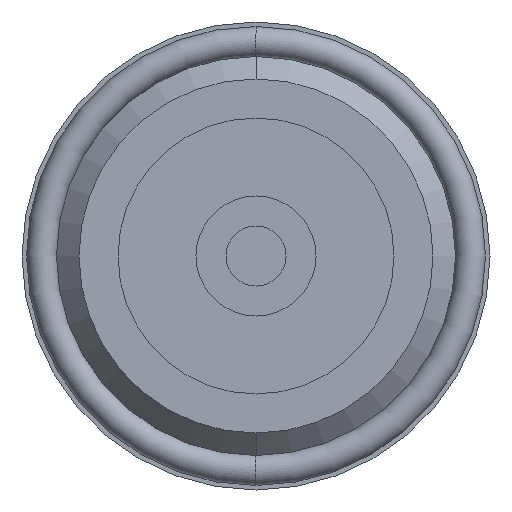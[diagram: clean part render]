
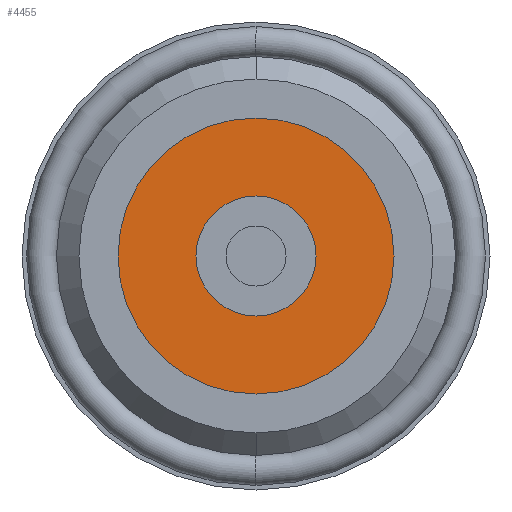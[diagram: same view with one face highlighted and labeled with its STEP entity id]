
A CAD part, front view. The second image highlights one B-rep face of the part: STEP entity #4455.
In plain terms, the highlighted planar face has unit normal (0, -1, 0).
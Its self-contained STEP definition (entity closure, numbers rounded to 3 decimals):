
#446 = CARTESIAN_POINT ( 'NONE',  ( 0., 0., 0. ) ) ;
#460 = CIRCLE ( 'NONE', #642, 5. ) ;
#594 = CIRCLE ( 'NONE', #597, 11.5 ) ;
#595 = DIRECTION ( 'NONE',  ( 0., -1., 0. ) ) ;
#596 = CARTESIAN_POINT ( 'NONE',  ( 0., 0., 0. ) ) ;
#597 = AXIS2_PLACEMENT_3D ( 'NONE', #596, #595, #639 ) ;
#639 = DIRECTION ( 'NONE',  ( 0., 0., -1. ) ) ;
#640 = DIRECTION ( 'NONE',  ( 0., 0., -1. ) ) ;
#641 = DIRECTION ( 'NONE',  ( 0., -1., 0. ) ) ;
#642 = AXIS2_PLACEMENT_3D ( 'NONE', #446, #641, #640 ) ;
#2072 = DIRECTION ( 'NONE',  ( 0., 0., -1. ) ) ;
#2073 = DIRECTION ( 'NONE',  ( 0., -1., 0. ) ) ;
#2074 = CARTESIAN_POINT ( 'NONE',  ( 11.5, 0., 0. ) ) ;
#2075 = AXIS2_PLACEMENT_3D ( 'NONE', #2074, #2073, #2072 ) ;
#2083 = FACE_BOUND ( 'NONE', #4456, .T. ) ;
#2086 = PLANE ( 'NONE',  #2075 ) ;
#2088 = FACE_OUTER_BOUND ( 'NONE', #4452, .T. ) ;
#2310 = CARTESIAN_POINT ( 'NONE',  ( 0., 0., 11.5 ) ) ;
#2312 = CARTESIAN_POINT ( 'NONE',  ( 0., 0., -11.5 ) ) ;
#2922 = DIRECTION ( 'NONE',  ( 0., 0., -1. ) ) ;
#2923 = DIRECTION ( 'NONE',  ( 0., -1., 0. ) ) ;
#2924 = CARTESIAN_POINT ( 'NONE',  ( 0., 0., 0. ) ) ;
#2930 = AXIS2_PLACEMENT_3D ( 'NONE', #2924, #2923, #2922 ) ;
#2955 = CIRCLE ( 'NONE', #2930, 11.5 ) ;
#3628 = VERTEX_POINT ( 'NONE', #6118 ) ;
#3631 = EDGE_CURVE ( 'NONE', #3635, #3628, #6123, .T. ) ;
#3635 = VERTEX_POINT ( 'NONE', #6113 ) ;
#3643 = VERTEX_POINT ( 'NONE', #2310 ) ;
#3644 = VERTEX_POINT ( 'NONE', #2312 ) ;
#3890 = EDGE_CURVE ( 'NONE', #3643, #3644, #2955, .T. ) ;
#4232 = EDGE_CURVE ( 'NONE', #3628, #3635, #460, .T. ) ;
#4267 = ORIENTED_EDGE ( 'NONE', *, *, #3631, .F. ) ;
#4285 = ORIENTED_EDGE ( 'NONE', *, *, #4286, .T. ) ;
#4286 = EDGE_CURVE ( 'NONE', #3644, #3643, #594, .T. ) ;
#4288 = ORIENTED_EDGE ( 'NONE', *, *, #3890, .T. ) ;
#4320 = ORIENTED_EDGE ( 'NONE', *, *, #4232, .F. ) ;
#4452 = EDGE_LOOP ( 'NONE', ( #4285, #4288 ) ) ;
#4455 = ADVANCED_FACE ( 'NONE', ( #2088, #2083 ), #2086, .T. ) ;
#4456 = EDGE_LOOP ( 'NONE', ( #4267, #4320 ) ) ;
#6110 = DIRECTION ( 'NONE',  ( 0., 0., -1. ) ) ;
#6111 = DIRECTION ( 'NONE',  ( 0., -1., 0. ) ) ;
#6112 = CARTESIAN_POINT ( 'NONE',  ( 0., 0., 0. ) ) ;
#6113 = CARTESIAN_POINT ( 'NONE',  ( 0., 0., -5. ) ) ;
#6118 = CARTESIAN_POINT ( 'NONE',  ( 0., 0., 5. ) ) ;
#6120 = AXIS2_PLACEMENT_3D ( 'NONE', #6112, #6111, #6110 ) ;
#6123 = CIRCLE ( 'NONE', #6120, 5. ) ;
